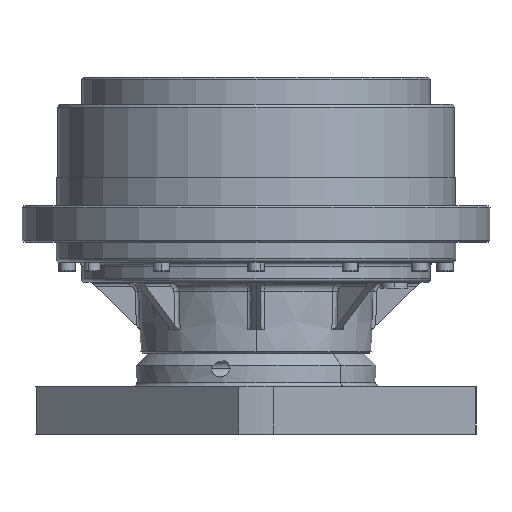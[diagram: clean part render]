
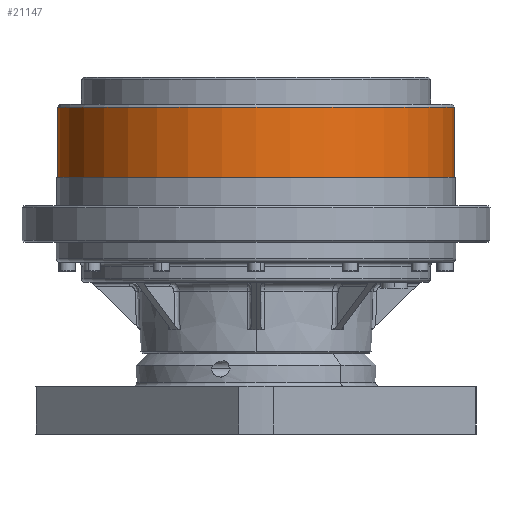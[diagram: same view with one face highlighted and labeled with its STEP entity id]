
A CAD part, front view. The second image highlights one B-rep face of the part: STEP entity #21147.
In plain terms, the highlighted cylindrical face has radius 103.5 mm (diameter 207 mm), a partial arc.
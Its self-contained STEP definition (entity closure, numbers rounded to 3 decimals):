
#962 = ORIENTED_EDGE ( 'NONE', *, *, #66604, .F. ) ;
#3811 = AXIS2_PLACEMENT_3D ( 'NONE', #131616, #65799, #31862 ) ;
#8063 = VERTEX_POINT ( 'NONE', #41581 ) ;
#11973 = AXIS2_PLACEMENT_3D ( 'NONE', #14107, #59132, #72382 ) ;
#14107 = CARTESIAN_POINT ( 'NONE',  ( 0., 0., 34. ) ) ;
#21057 = CARTESIAN_POINT ( 'NONE',  ( 0., 0., 70.5 ) ) ;
#21147 = ADVANCED_FACE ( 'NONE', ( #76902 ), #121257, .T. ) ;
#24140 = VECTOR ( 'NONE', #107650, 1000. ) ;
#24499 = EDGE_LOOP ( 'NONE', ( #140937, #67954, #117480, #962 ) ) ;
#31862 = DIRECTION ( 'NONE',  ( -1., 0., 0. ) ) ;
#35010 = EDGE_CURVE ( 'NONE', #85505, #8063, #111064, .T. ) ;
#41581 = CARTESIAN_POINT ( 'NONE',  ( -103.5, 0., 34. ) ) ;
#44293 = VERTEX_POINT ( 'NONE', #49670 ) ;
#44696 = DIRECTION ( 'NONE',  ( -1., 0., 0. ) ) ;
#49670 = CARTESIAN_POINT ( 'NONE',  ( -103.5, 0., 70.5 ) ) ;
#56129 = LINE ( 'NONE', #146193, #86568 ) ;
#59132 = DIRECTION ( 'NONE',  ( 0., 0., -1. ) ) ;
#62581 = EDGE_CURVE ( 'NONE', #44293, #77128, #96930, .T. ) ;
#62629 = LINE ( 'NONE', #141665, #24140 ) ;
#65799 = DIRECTION ( 'NONE',  ( 0., 0., 1. ) ) ;
#66604 = EDGE_CURVE ( 'NONE', #8063, #44293, #56129, .T. ) ;
#67578 = DIRECTION ( 'NONE',  ( 0., 0., 1. ) ) ;
#67954 = ORIENTED_EDGE ( 'NONE', *, *, #85250, .T. ) ;
#72382 = DIRECTION ( 'NONE',  ( -1., 0., 0. ) ) ;
#75760 = AXIS2_PLACEMENT_3D ( 'NONE', #21057, #67578, #44696 ) ;
#76902 = FACE_OUTER_BOUND ( 'NONE', #24499, .T. ) ;
#77128 = VERTEX_POINT ( 'NONE', #110064 ) ;
#79009 = DIRECTION ( 'NONE',  ( 0., 0., 1. ) ) ;
#80983 = CARTESIAN_POINT ( 'NONE',  ( 103.5, 0., 34. ) ) ;
#85250 = EDGE_CURVE ( 'NONE', #85505, #77128, #62629, .T. ) ;
#85505 = VERTEX_POINT ( 'NONE', #80983 ) ;
#86568 = VECTOR ( 'NONE', #79009, 1000. ) ;
#96930 = CIRCLE ( 'NONE', #75760, 103.5 ) ;
#107650 = DIRECTION ( 'NONE',  ( 0., 0., 1. ) ) ;
#110064 = CARTESIAN_POINT ( 'NONE',  ( 103.5, 0., 70.5 ) ) ;
#111064 = CIRCLE ( 'NONE', #11973, 103.5 ) ;
#117480 = ORIENTED_EDGE ( 'NONE', *, *, #62581, .F. ) ;
#121257 = CYLINDRICAL_SURFACE ( 'NONE', #3811, 103.5 ) ;
#131616 = CARTESIAN_POINT ( 'NONE',  ( 0., 0., 34. ) ) ;
#140937 = ORIENTED_EDGE ( 'NONE', *, *, #35010, .F. ) ;
#141665 = CARTESIAN_POINT ( 'NONE',  ( 103.5, 0., 34. ) ) ;
#146193 = CARTESIAN_POINT ( 'NONE',  ( -103.5, 0., 34. ) ) ;
